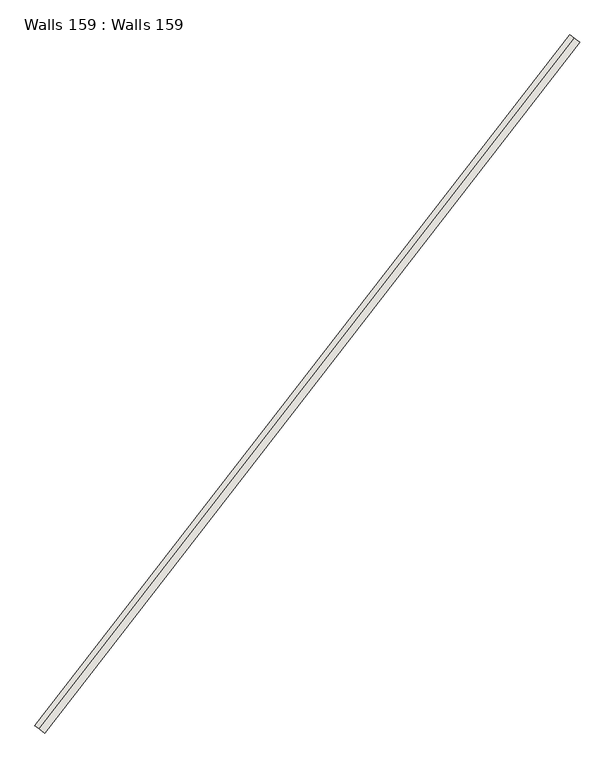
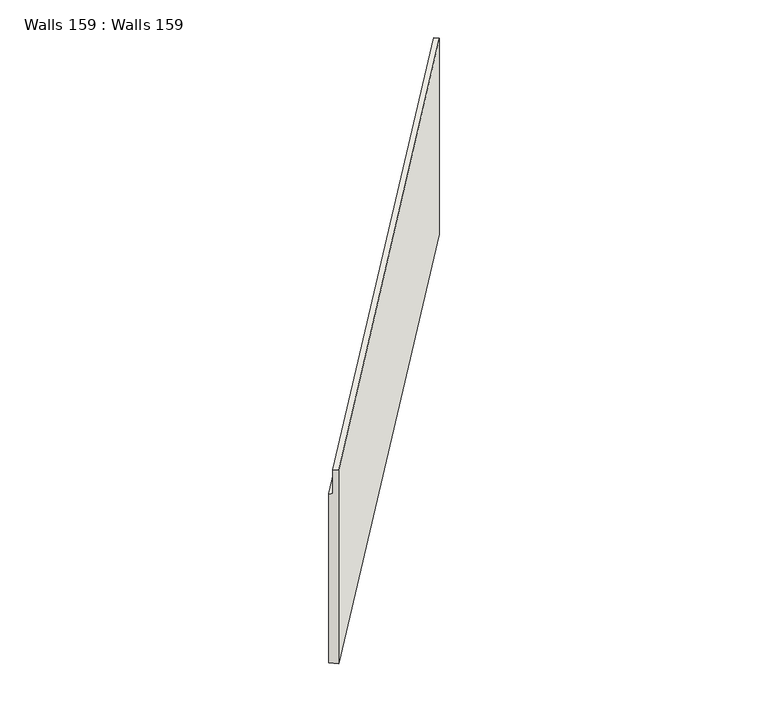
"""IFC4 building model written with IfcOpenShell, lengths in millimetres: wall geometry, Walls 159 : Walls 159."""

from ifc_helpers import new_model, si_unit, frame, origin, place, context, project, spatial, source, transform, mapped, element, save
from ifc_brep_helpers import plane_surface, spline_surface, advanced_brep


def walls_159_walls_159_9c59622a(model_context):
    return source(origin(), model_context, "Body", "AdvancedBrep", [
        advanced_brep(
        [(129870.942115, 33677.137435, 640602.6692879), (130147.527374, 33462.6599432, 640602.6517879), (130147.527374, 33462.6599432, 648603.0), (129989.4786546, 33585.2185099, 648603.01), (129989.4786546, 33585.2185099, 647603.0), (129870.942115, 33677.137435, 647603.0), (145296.1267959, 53569.1021528, 640889.7832813), (145296.1267959, 53569.1021528, 648010.2060169), (145414.6633354, 53477.1832277, 648010.2060169), (145414.6633354, 53477.1832277, 649010.216017), (145572.7120549, 53354.624661, 649010.2060169), (145572.7120549, 53354.624661, 640889.7832813)],
        [
            (0, 1),
            (1, 2),
            (2, 3),
            (3, 4),
            (4, 5),
            (5, 0),
            (6, 7),
            (7, 8),
            (8, 9),
            (9, 10),
            (10, 11),
            (11, 6),
            (11, 1),
            (0, 6),
            (10, 2),
            (9, 3),
            (8, 4),
            (7, 5),
        ],
        [
            plane_surface(frame((130002.6493812, 33575.005296, 645602.8885126), z_axis=(-0.6127928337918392, -0.7902435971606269, 0.0), x_axis=(0.7902435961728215, -0.6127928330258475, -5.0000024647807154e-05))),
            plane_surface(frame((145427.8340621, 53466.9700138, 645970.0667717), z_axis=(0.6127928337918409, 0.7902435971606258, 0.0), x_axis=(0.7902435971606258, -0.6127928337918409, 0.0))),
            spline_surface(1, 1, [[(145296.1267959, 53569.1021528, 640889.7832813), (129870.942115, 33677.137435, 640602.6692879)], [(145572.7120549, 53354.624661, 640889.7832813), (130147.527374, 33462.6599432, 640602.6517879)]], [2, 2], [2, 2], [0.0, 1.0], [0.0, 1.0]),
            plane_surface(frame((145572.7120549, 53354.624661, 644949.9946491), z_axis=(0.790243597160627, -0.6127928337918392, 0.0), x_axis=(0.0, 0.0, 1.0))),
            plane_surface(frame((145493.6876952, 53415.9039443, 649010.211017), z_axis=(-0.009872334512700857, -0.012812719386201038, 0.9998691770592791), x_axis=(-0.7902435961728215, 0.6127928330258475, 5.0000024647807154e-05))),
            plane_surface(frame((145414.6633354, 53477.1832277, 648510.211017), z_axis=(-0.7902435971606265, 0.6127928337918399, 0.0), x_axis=(0.0, 0.0, -1.0))),
            plane_surface(frame((145355.3950657, 53523.1426902, 648010.2060169), z_axis=(-0.0099118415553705, -0.012782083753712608, 0.9998691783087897), x_axis=(-0.7902435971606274, 0.6127928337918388, 0.0))),
            plane_surface(frame((145296.1267959, 53569.1021528, 644449.9946491), z_axis=(-0.7902435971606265, 0.6127928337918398, 0.0), x_axis=(0.0, 0.0, -1.0))),
        ],
        [
            (0, [[1, 2, 3, 4, 5, 6]]),
            (1, [[7, 8, 9, 10, 11, 12]]),
            (2, [[-12, 13, -1, 14]]),
            (3, [[-11, 15, -2, -13]]),
            (4, [[-10, 16, -3, -15]]),
            (5, [[-9, 17, -4, -16]]),
            (6, [[-8, 18, -5, -17]]),
            (7, [[-7, -14, -6, -18]]),
        ],
    ),
    ])


if __name__ == "__main__":
    model = new_model("IFC4")
    model_context = context("Model", 3, world=origin())
    ifc_project = project(units=[si_unit("LENGTHUNIT", "METRE", prefix="MILLI")], contexts=[model_context])
    site = spatial("IfcSite", under=ifc_project)
    building = spatial("IfcBuilding", under=site)
    placement = place(None, origin())
    walls_159_walls_159_shape = walls_159_walls_159_9c59622a(model_context)
    element("IfcWall", 1, ObjectType="Walls 159 : Walls 159", at=placement, inside=building, context=model_context, shape_type="MappedRepresentation", body=[
        mapped(walls_159_walls_159_shape, transform((0.0, 0.0, 0.0), x_axis=(1.0, 0.0, 0.0), y_axis=(0.0, 1.0, 0.0), z_axis=(0.0, 0.0, 1.0))),
    ])
    save(model, "model.ifc")
